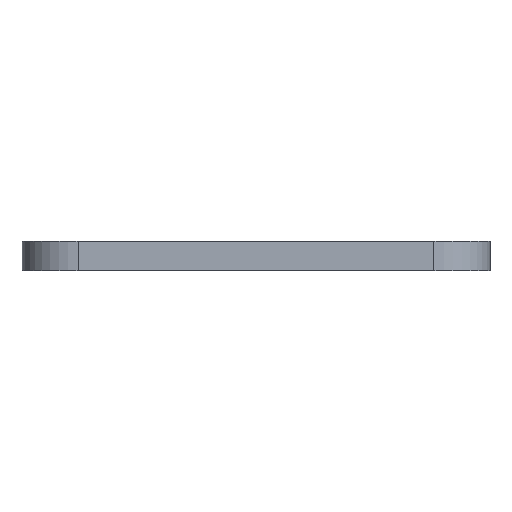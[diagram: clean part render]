
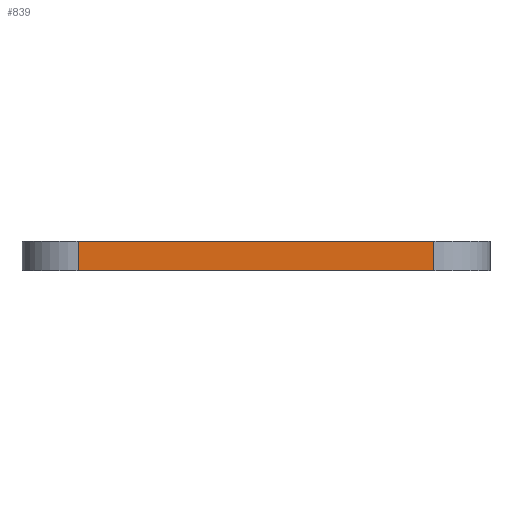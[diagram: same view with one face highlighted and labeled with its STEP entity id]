
A CAD part, left-side view. The second image highlights one B-rep face of the part: STEP entity #839.
In plain terms, the highlighted planar face has unit normal (-1, 0, 0).
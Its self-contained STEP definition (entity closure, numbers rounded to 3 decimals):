
#66 = PLANE('',#67);
#67 = AXIS2_PLACEMENT_3D('',#68,#69,#70);
#68 = CARTESIAN_POINT('',(0.,-36.,4.8));
#69 = DIRECTION('',(0.,0.,1.));
#70 = DIRECTION('',(1.,0.,-0.));
#94 = PLANE('',#95);
#95 = AXIS2_PLACEMENT_3D('',#96,#97,#98);
#96 = CARTESIAN_POINT('',(0.,-36.,6.4));
#97 = DIRECTION('',(0.,0.,1.));
#98 = DIRECTION('',(1.,0.,-0.));
#839 = ADVANCED_FACE('',(#840),#854,.T.);
#840 = FACE_BOUND('',#841,.T.);
#841 = EDGE_LOOP('',(#842,#872,#900,#923));
#842 = ORIENTED_EDGE('',*,*,#843,.T.);
#843 = EDGE_CURVE('',#844,#846,#848,.T.);
#844 = VERTEX_POINT('',#845);
#845 = CARTESIAN_POINT('',(-15.5,-26.5,4.8));
#846 = VERTEX_POINT('',#847);
#847 = CARTESIAN_POINT('',(-15.5,-45.5,4.8));
#848 = SURFACE_CURVE('',#849,(#853,#865),.PCURVE_S1.);
#849 = LINE('',#850,#851);
#850 = CARTESIAN_POINT('',(-15.5,-26.5,4.8));
#851 = VECTOR('',#852,1.);
#852 = DIRECTION('',(0.,-1.,0.));
#853 = PCURVE('',#854,#859);
#854 = PLANE('',#855);
#855 = AXIS2_PLACEMENT_3D('',#856,#857,#858);
#856 = CARTESIAN_POINT('',(-15.5,-26.5,4.8));
#857 = DIRECTION('',(-1.,0.,0.));
#858 = DIRECTION('',(0.,-1.,0.));
#859 = DEFINITIONAL_REPRESENTATION('',(#860),#864);
#860 = LINE('',#861,#862);
#861 = CARTESIAN_POINT('',(0.,0.));
#862 = VECTOR('',#863,1.);
#863 = DIRECTION('',(1.,0.));
#864 = ( GEOMETRIC_REPRESENTATION_CONTEXT(2) 
PARAMETRIC_REPRESENTATION_CONTEXT() REPRESENTATION_CONTEXT('2D SPACE',''
  ) );
#865 = PCURVE('',#66,#866);
#866 = DEFINITIONAL_REPRESENTATION('',(#867),#871);
#867 = LINE('',#868,#869);
#868 = CARTESIAN_POINT('',(-15.5,9.5));
#869 = VECTOR('',#870,1.);
#870 = DIRECTION('',(0.,-1.));
#871 = ( GEOMETRIC_REPRESENTATION_CONTEXT(2) 
PARAMETRIC_REPRESENTATION_CONTEXT() REPRESENTATION_CONTEXT('2D SPACE',''
  ) );
#872 = ORIENTED_EDGE('',*,*,#873,.T.);
#873 = EDGE_CURVE('',#846,#874,#876,.T.);
#874 = VERTEX_POINT('',#875);
#875 = CARTESIAN_POINT('',(-15.5,-45.5,6.4));
#876 = SURFACE_CURVE('',#877,(#881,#888),.PCURVE_S1.);
#877 = LINE('',#878,#879);
#878 = CARTESIAN_POINT('',(-15.5,-45.5,4.8));
#879 = VECTOR('',#880,1.);
#880 = DIRECTION('',(0.,0.,1.));
#881 = PCURVE('',#854,#882);
#882 = DEFINITIONAL_REPRESENTATION('',(#883),#887);
#883 = LINE('',#884,#885);
#884 = CARTESIAN_POINT('',(19.,0.));
#885 = VECTOR('',#886,1.);
#886 = DIRECTION('',(0.,1.));
#887 = ( GEOMETRIC_REPRESENTATION_CONTEXT(2) 
PARAMETRIC_REPRESENTATION_CONTEXT() REPRESENTATION_CONTEXT('2D SPACE',''
  ) );
#888 = PCURVE('',#889,#894);
#889 = CYLINDRICAL_SURFACE('',#890,3.);
#890 = AXIS2_PLACEMENT_3D('',#891,#892,#893);
#891 = CARTESIAN_POINT('',(-12.5,-45.5,4.8));
#892 = DIRECTION('',(0.,0.,1.));
#893 = DIRECTION('',(-1.,0.,0.));
#894 = DEFINITIONAL_REPRESENTATION('',(#895),#899);
#895 = LINE('',#896,#897);
#896 = CARTESIAN_POINT('',(0.,0.));
#897 = VECTOR('',#898,1.);
#898 = DIRECTION('',(0.,1.));
#899 = ( GEOMETRIC_REPRESENTATION_CONTEXT(2) 
PARAMETRIC_REPRESENTATION_CONTEXT() REPRESENTATION_CONTEXT('2D SPACE',''
  ) );
#900 = ORIENTED_EDGE('',*,*,#901,.F.);
#901 = EDGE_CURVE('',#902,#874,#904,.T.);
#902 = VERTEX_POINT('',#903);
#903 = CARTESIAN_POINT('',(-15.5,-26.5,6.4));
#904 = SURFACE_CURVE('',#905,(#909,#916),.PCURVE_S1.);
#905 = LINE('',#906,#907);
#906 = CARTESIAN_POINT('',(-15.5,-26.5,6.4));
#907 = VECTOR('',#908,1.);
#908 = DIRECTION('',(0.,-1.,0.));
#909 = PCURVE('',#854,#910);
#910 = DEFINITIONAL_REPRESENTATION('',(#911),#915);
#911 = LINE('',#912,#913);
#912 = CARTESIAN_POINT('',(0.,1.6));
#913 = VECTOR('',#914,1.);
#914 = DIRECTION('',(1.,0.));
#915 = ( GEOMETRIC_REPRESENTATION_CONTEXT(2) 
PARAMETRIC_REPRESENTATION_CONTEXT() REPRESENTATION_CONTEXT('2D SPACE',''
  ) );
#916 = PCURVE('',#94,#917);
#917 = DEFINITIONAL_REPRESENTATION('',(#918),#922);
#918 = LINE('',#919,#920);
#919 = CARTESIAN_POINT('',(-15.5,9.5));
#920 = VECTOR('',#921,1.);
#921 = DIRECTION('',(0.,-1.));
#922 = ( GEOMETRIC_REPRESENTATION_CONTEXT(2) 
PARAMETRIC_REPRESENTATION_CONTEXT() REPRESENTATION_CONTEXT('2D SPACE',''
  ) );
#923 = ORIENTED_EDGE('',*,*,#924,.F.);
#924 = EDGE_CURVE('',#844,#902,#925,.T.);
#925 = SURFACE_CURVE('',#926,(#930,#937),.PCURVE_S1.);
#926 = LINE('',#927,#928);
#927 = CARTESIAN_POINT('',(-15.5,-26.5,4.8));
#928 = VECTOR('',#929,1.);
#929 = DIRECTION('',(0.,0.,1.));
#930 = PCURVE('',#854,#931);
#931 = DEFINITIONAL_REPRESENTATION('',(#932),#936);
#932 = LINE('',#933,#934);
#933 = CARTESIAN_POINT('',(0.,0.));
#934 = VECTOR('',#935,1.);
#935 = DIRECTION('',(0.,1.));
#936 = ( GEOMETRIC_REPRESENTATION_CONTEXT(2) 
PARAMETRIC_REPRESENTATION_CONTEXT() REPRESENTATION_CONTEXT('2D SPACE',''
  ) );
#937 = PCURVE('',#938,#943);
#938 = CYLINDRICAL_SURFACE('',#939,3.);
#939 = AXIS2_PLACEMENT_3D('',#940,#941,#942);
#940 = CARTESIAN_POINT('',(-12.5,-26.5,4.8));
#941 = DIRECTION('',(0.,0.,1.));
#942 = DIRECTION('',(0.,1.,0.));
#943 = DEFINITIONAL_REPRESENTATION('',(#944),#948);
#944 = LINE('',#945,#946);
#945 = CARTESIAN_POINT('',(1.571,0.));
#946 = VECTOR('',#947,1.);
#947 = DIRECTION('',(0.,1.));
#948 = ( GEOMETRIC_REPRESENTATION_CONTEXT(2) 
PARAMETRIC_REPRESENTATION_CONTEXT() REPRESENTATION_CONTEXT('2D SPACE',''
  ) );
